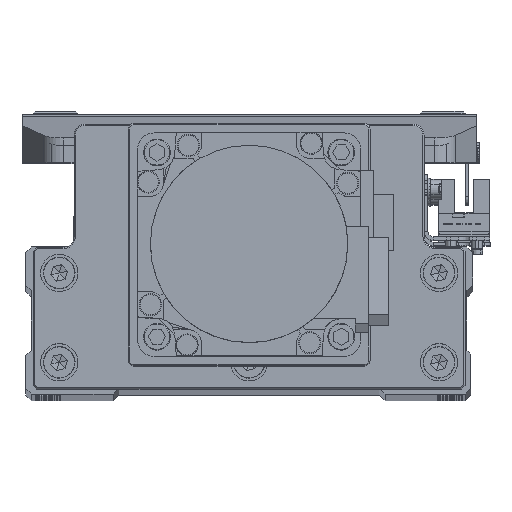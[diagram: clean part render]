
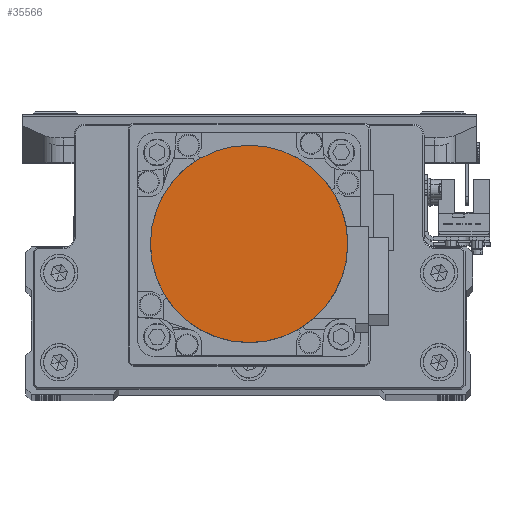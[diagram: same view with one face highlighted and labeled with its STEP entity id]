
A CAD part, top view. The second image highlights one B-rep face of the part: STEP entity #35566.
In plain terms, the highlighted planar face has unit normal (0, 0, 1) as drawn and (0, 0, -1) by its records, which use the part's own axes.
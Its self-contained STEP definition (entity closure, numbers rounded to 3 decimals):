
#205 = FACE_OUTER_BOUND ( 'NONE', #2448, .T. ) ;
#2448 = EDGE_LOOP ( 'NONE', ( #14681, #12203 ) ) ;
#10827 = VERTEX_POINT ( 'NONE', #29306 ) ;
#10837 = DIRECTION ( 'NONE',  ( 1., 0., 0. ) ) ;
#11059 = DIRECTION ( 'NONE',  ( 0., 0., 1. ) ) ;
#11323 = AXIS2_PLACEMENT_3D ( 'NONE', #15345, #29478, #43619 ) ;
#12203 = ORIENTED_EDGE ( 'NONE', *, *, #28595, .F. ) ;
#12546 = EDGE_CURVE ( 'NONE', #10827, #23795, #25398, .T. ) ;
#12668 = CIRCLE ( 'NONE', #38568, 26.5 ) ;
#14321 = PLANE ( 'NONE',  #43579 ) ;
#14681 = ORIENTED_EDGE ( 'NONE', *, *, #12546, .F. ) ;
#15345 = CARTESIAN_POINT ( 'NONE',  ( 0., 0., -109.7 ) ) ;
#23795 = VERTEX_POINT ( 'NONE', #45786 ) ;
#25205 = DIRECTION ( 'NONE',  ( 1., 0., 0. ) ) ;
#25398 = CIRCLE ( 'NONE', #11323, 26.5 ) ;
#28452 = CARTESIAN_POINT ( 'NONE',  ( 0., 0., -109.7 ) ) ;
#28595 = EDGE_CURVE ( 'NONE', #23795, #10827, #12668, .T. ) ;
#29306 = CARTESIAN_POINT ( 'NONE',  ( -26.5, 0., -109.7 ) ) ;
#29478 = DIRECTION ( 'NONE',  ( 0., 0., 1. ) ) ;
#35566 = ADVANCED_FACE ( 'NONE', ( #205 ), #14321, .F. ) ;
#38568 = AXIS2_PLACEMENT_3D ( 'NONE', #42805, #11059, #25205 ) ;
#42585 = DIRECTION ( 'NONE',  ( 0., 0., 1. ) ) ;
#42805 = CARTESIAN_POINT ( 'NONE',  ( 0., 0., -109.7 ) ) ;
#43579 = AXIS2_PLACEMENT_3D ( 'NONE', #28452, #42585, #10837 ) ;
#43619 = DIRECTION ( 'NONE',  ( -1., 0., 0. ) ) ;
#45786 = CARTESIAN_POINT ( 'NONE',  ( 26.5, 0., -109.7 ) ) ;
